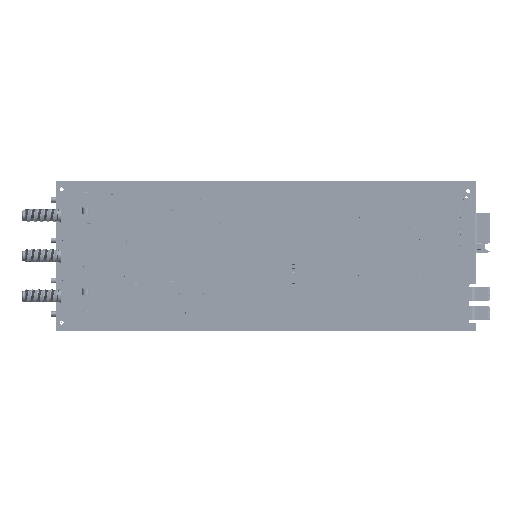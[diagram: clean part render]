
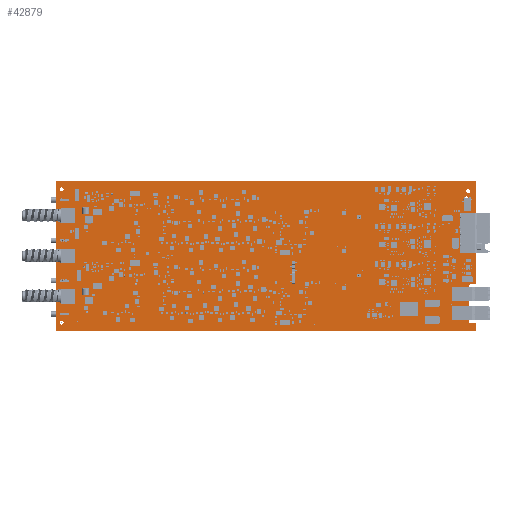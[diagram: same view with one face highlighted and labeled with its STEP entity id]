
A CAD part, top view. The second image highlights one B-rep face of the part: STEP entity #42879.
In plain terms, the highlighted planar face has unit normal (0, 0, 1).
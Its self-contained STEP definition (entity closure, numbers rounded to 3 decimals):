
#42879=ADVANCED_FACE('',(#74057,#74058,#74059,#74060,#74061,#74062,#74063,#74064,#74065,#74066,#74067,#74068,#74069,#74070),#74071,.T.);
#74057=FACE_BOUND('',#110125,.T.);
#74058=FACE_BOUND('',#110126,.T.);
#74059=FACE_BOUND('',#110127,.T.);
#74060=FACE_BOUND('',#110128,.T.);
#74061=FACE_BOUND('',#110129,.T.);
#74062=FACE_BOUND('',#110130,.T.);
#74063=FACE_BOUND('',#110131,.T.);
#74064=FACE_BOUND('',#110132,.T.);
#74065=FACE_BOUND('',#110133,.T.);
#74066=FACE_BOUND('',#110134,.T.);
#74067=FACE_BOUND('',#110135,.T.);
#74068=FACE_BOUND('',#110136,.T.);
#74069=FACE_BOUND('',#110137,.T.);
#74070=FACE_OUTER_BOUND('',#110138,.T.);
#74071=PLANE('',#110139);
#110125=EDGE_LOOP('',(#159802));
#110126=EDGE_LOOP('',(#159803));
#110127=EDGE_LOOP('',(#159804));
#110128=EDGE_LOOP('',(#159805));
#110129=EDGE_LOOP('',(#159806));
#110130=EDGE_LOOP('',(#159807));
#110131=EDGE_LOOP('',(#159808));
#110132=EDGE_LOOP('',(#159809));
#110133=EDGE_LOOP('',(#159810));
#110134=EDGE_LOOP('',(#159811));
#110135=EDGE_LOOP('',(#159812));
#110136=EDGE_LOOP('',(#159813));
#110137=EDGE_LOOP('',(#159814));
#110138=EDGE_LOOP('',(#159815,#159816,#159817,#159818,#159819,#159820,#159821,#159822,#159823,#159824));
#110139=AXIS2_PLACEMENT_3D('',#159825,#159826,#159827);
#159802=ORIENTED_EDGE('',*,*,#186304,.T.);
#159803=ORIENTED_EDGE('',*,*,#186307,.T.);
#159804=ORIENTED_EDGE('',*,*,#186310,.T.);
#159805=ORIENTED_EDGE('',*,*,#186313,.T.);
#159806=ORIENTED_EDGE('',*,*,#186316,.T.);
#159807=ORIENTED_EDGE('',*,*,#186319,.T.);
#159808=ORIENTED_EDGE('',*,*,#186322,.T.);
#159809=ORIENTED_EDGE('',*,*,#186325,.T.);
#159810=ORIENTED_EDGE('',*,*,#186328,.T.);
#159811=ORIENTED_EDGE('',*,*,#186331,.T.);
#159812=ORIENTED_EDGE('',*,*,#186334,.T.);
#159813=ORIENTED_EDGE('',*,*,#186337,.T.);
#159814=ORIENTED_EDGE('',*,*,#186340,.T.);
#159815=ORIENTED_EDGE('',*,*,#186343,.F.);
#159816=ORIENTED_EDGE('',*,*,#186344,.F.);
#159817=ORIENTED_EDGE('',*,*,#186345,.F.);
#159818=ORIENTED_EDGE('',*,*,#186346,.F.);
#159819=ORIENTED_EDGE('',*,*,#186347,.F.);
#159820=ORIENTED_EDGE('',*,*,#186348,.F.);
#159821=ORIENTED_EDGE('',*,*,#186349,.F.);
#159822=ORIENTED_EDGE('',*,*,#186350,.F.);
#159823=ORIENTED_EDGE('',*,*,#186351,.F.);
#159824=ORIENTED_EDGE('',*,*,#186352,.F.);
#159825=CARTESIAN_POINT('',(137.676,44.13,2.272));
#159826=DIRECTION('',(0.0,0.0,1.0));
#159827=DIRECTION('',(1.0,0.0,0.0));
#186304=EDGE_CURVE('',#212588,#212588,#212589,.T.);
#186307=EDGE_CURVE('',#212593,#212593,#212594,.T.);
#186310=EDGE_CURVE('',#212598,#212598,#212599,.T.);
#186313=EDGE_CURVE('',#212603,#212603,#212604,.T.);
#186316=EDGE_CURVE('',#212608,#212608,#212609,.T.);
#186319=EDGE_CURVE('',#212613,#212613,#212614,.T.);
#186322=EDGE_CURVE('',#212618,#212618,#212619,.T.);
#186325=EDGE_CURVE('',#212623,#212623,#212624,.T.);
#186328=EDGE_CURVE('',#212628,#212628,#212629,.T.);
#186331=EDGE_CURVE('',#212633,#212633,#212634,.T.);
#186334=EDGE_CURVE('',#212638,#212638,#212639,.T.);
#186337=EDGE_CURVE('',#212643,#212643,#212644,.T.);
#186340=EDGE_CURVE('',#212648,#212648,#212649,.T.);
#186343=EDGE_CURVE('',#212653,#212654,#212655,.T.);
#186344=EDGE_CURVE('',#212656,#212653,#212657,.T.);
#186345=EDGE_CURVE('',#212658,#212656,#212659,.T.);
#186346=EDGE_CURVE('',#212660,#212658,#212661,.T.);
#186347=EDGE_CURVE('',#212662,#212660,#212663,.T.);
#186348=EDGE_CURVE('',#212664,#212662,#212665,.T.);
#186349=EDGE_CURVE('',#212666,#212664,#212667,.T.);
#186350=EDGE_CURVE('',#212668,#212666,#212669,.T.);
#186351=EDGE_CURVE('',#212670,#212668,#212671,.T.);
#186352=EDGE_CURVE('',#212654,#212670,#212672,.T.);
#212588=VERTEX_POINT('',#256981);
#212589=CIRCLE('',#256982,1.35);
#212593=VERTEX_POINT('',#256986);
#212594=CIRCLE('',#256987,1.35);
#212598=VERTEX_POINT('',#256991);
#212599=CIRCLE('',#256992,1.35);
#212603=VERTEX_POINT('',#256996);
#212604=CIRCLE('',#256997,1.9);
#212608=VERTEX_POINT('',#257001);
#212609=CIRCLE('',#257002,0.75);
#212613=VERTEX_POINT('',#257006);
#212614=CIRCLE('',#257007,0.965);
#212618=VERTEX_POINT('',#257011);
#212619=CIRCLE('',#257012,0.965);
#212623=VERTEX_POINT('',#257016);
#212624=CIRCLE('',#257017,0.965);
#212628=VERTEX_POINT('',#257021);
#212629=CIRCLE('',#257022,0.965);
#212633=VERTEX_POINT('',#257026);
#212634=CIRCLE('',#257027,0.965);
#212638=VERTEX_POINT('',#257031);
#212639=CIRCLE('',#257032,0.965);
#212643=VERTEX_POINT('',#257036);
#212644=CIRCLE('',#257037,0.965);
#212648=VERTEX_POINT('',#257041);
#212649=CIRCLE('',#257042,0.965);
#212653=VERTEX_POINT('',#257046);
#212654=VERTEX_POINT('',#257047);
#212655=LINE('',#257048,#257049);
#212656=VERTEX_POINT('',#257050);
#212657=LINE('',#257051,#257052);
#212658=VERTEX_POINT('',#257053);
#212659=LINE('',#257054,#257055);
#212660=VERTEX_POINT('',#257056);
#212661=LINE('',#257057,#257058);
#212662=VERTEX_POINT('',#257059);
#212663=LINE('',#257060,#257061);
#212664=VERTEX_POINT('',#257062);
#212665=LINE('',#257063,#257064);
#212666=VERTEX_POINT('',#257065);
#212667=LINE('',#257066,#257067);
#212668=VERTEX_POINT('',#257068);
#212669=CIRCLE('',#257069,1.5);
#212670=VERTEX_POINT('',#257070);
#212671=LINE('',#257071,#257072);
#212672=CIRCLE('',#257073,1.5);
#256981=CARTESIAN_POINT('',(271.47,89.1,2.272));
#256982=AXIS2_PLACEMENT_3D('',#276909,#276910,#276911);
#256986=CARTESIAN_POINT('',(0.0,90.25,2.272));
#256987=AXIS2_PLACEMENT_3D('',#276915,#276916,#276917);
#256991=CARTESIAN_POINT('',(0.0,1.35,2.272));
#256992=AXIS2_PLACEMENT_3D('',#276921,#276922,#276923);
#256996=CARTESIAN_POINT('',(269.74,52.45,2.272));
#256997=AXIS2_PLACEMENT_3D('',#276927,#276928,#276929);
#257001=CARTESIAN_POINT('',(270.415,84.225,2.272));
#257002=AXIS2_PLACEMENT_3D('',#276933,#276934,#276935);
#257006=CARTESIAN_POINT('',(2.912,82.865,2.272));
#257007=AXIS2_PLACEMENT_3D('',#276939,#276940,#276941);
#257011=CARTESIAN_POINT('',(-0.06,82.865,2.272));
#257012=AXIS2_PLACEMENT_3D('',#276945,#276946,#276947);
#257016=CARTESIAN_POINT('',(2.912,28.865,2.272));
#257017=AXIS2_PLACEMENT_3D('',#276951,#276952,#276953);
#257021=CARTESIAN_POINT('',(-0.06,28.865,2.272));
#257022=AXIS2_PLACEMENT_3D('',#276957,#276958,#276959);
#257026=CARTESIAN_POINT('',(2.912,6.665,2.272));
#257027=AXIS2_PLACEMENT_3D('',#276963,#276964,#276965);
#257031=CARTESIAN_POINT('',(-0.06,6.665,2.272));
#257032=AXIS2_PLACEMENT_3D('',#276969,#276970,#276971);
#257036=CARTESIAN_POINT('',(2.912,55.865,2.272));
#257037=AXIS2_PLACEMENT_3D('',#276975,#276976,#276977);
#257041=CARTESIAN_POINT('',(-0.06,55.865,2.272));
#257042=AXIS2_PLACEMENT_3D('',#276981,#276982,#276983);
#257046=CARTESIAN_POINT('',(276.44,25.5,2.272));
#257047=CARTESIAN_POINT('',(273.44,25.5,2.272));
#257048=CARTESIAN_POINT('',(274.94,25.5,2.272));
#257049=VECTOR('',#276987,1.0);
#257050=CARTESIAN_POINT('',(276.44,94.45,2.272));
#257051=CARTESIAN_POINT('',(276.44,59.975,2.272));
#257052=VECTOR('',#276988,1.0);
#257053=CARTESIAN_POINT('',(-3.56,94.45,2.272));
#257054=CARTESIAN_POINT('',(136.44,94.45,2.272));
#257055=VECTOR('',#276989,1.0);
#257056=CARTESIAN_POINT('',(-3.56,-5.55,2.272));
#257057=CARTESIAN_POINT('',(-3.56,44.45,2.272));
#257058=VECTOR('',#276990,1.0);
#257059=CARTESIAN_POINT('',(276.44,-5.55,2.272));
#257060=CARTESIAN_POINT('',(136.44,-5.55,2.272));
#257061=VECTOR('',#276991,1.0);
#257062=CARTESIAN_POINT('',(276.44,-0.4,2.272));
#257063=CARTESIAN_POINT('',(276.44,-2.975,2.272));
#257064=VECTOR('',#276992,1.0);
#257065=CARTESIAN_POINT('',(273.44,-0.4,2.272));
#257066=CARTESIAN_POINT('',(274.94,-0.4,2.272));
#257067=VECTOR('',#276993,1.0);
#257068=CARTESIAN_POINT('',(271.94,1.1,2.272));
#257069=AXIS2_PLACEMENT_3D('',#276994,#276995,#276996);
#257070=CARTESIAN_POINT('',(271.94,24.0,2.272));
#257071=CARTESIAN_POINT('',(271.94,12.55,2.272));
#257072=VECTOR('',#276997,1.0);
#257073=AXIS2_PLACEMENT_3D('',#276998,#276999,#277000);
#276909=CARTESIAN_POINT('',(271.47,87.75,2.272));
#276910=DIRECTION('',(0.0,0.0,-1.0));
#276911=DIRECTION('',(0.0,1.0,0.0));
#276915=CARTESIAN_POINT('',(0.0,88.9,2.272));
#276916=DIRECTION('',(0.0,0.0,-1.0));
#276917=DIRECTION('',(0.0,1.0,0.0));
#276921=CARTESIAN_POINT('',(0.0,0.0,2.272));
#276922=DIRECTION('',(0.0,0.0,-1.0));
#276923=DIRECTION('',(0.0,1.0,0.0));
#276927=CARTESIAN_POINT('',(269.74,50.55,2.272));
#276928=DIRECTION('',(0.0,0.0,-1.0));
#276929=DIRECTION('',(0.0,1.0,0.0));
#276933=CARTESIAN_POINT('',(270.415,83.475,2.272));
#276934=DIRECTION('',(0.0,0.0,-1.0));
#276935=DIRECTION('',(0.0,1.0,0.0));
#276939=CARTESIAN_POINT('',(2.912,81.9,2.272));
#276940=DIRECTION('',(0.0,0.0,-1.0));
#276941=DIRECTION('',(0.0,1.0,0.0));
#276945=CARTESIAN_POINT('',(-0.06,81.9,2.272));
#276946=DIRECTION('',(0.0,0.0,-1.0));
#276947=DIRECTION('',(0.0,1.0,0.0));
#276951=CARTESIAN_POINT('',(2.912,27.9,2.272));
#276952=DIRECTION('',(0.0,0.0,-1.0));
#276953=DIRECTION('',(0.0,1.0,0.0));
#276957=CARTESIAN_POINT('',(-0.06,27.9,2.272));
#276958=DIRECTION('',(0.0,0.0,-1.0));
#276959=DIRECTION('',(0.0,1.0,0.0));
#276963=CARTESIAN_POINT('',(2.912,5.7,2.272));
#276964=DIRECTION('',(0.0,0.0,-1.0));
#276965=DIRECTION('',(0.0,1.0,0.0));
#276969=CARTESIAN_POINT('',(-0.06,5.7,2.272));
#276970=DIRECTION('',(0.0,0.0,-1.0));
#276971=DIRECTION('',(0.0,1.0,0.0));
#276975=CARTESIAN_POINT('',(2.912,54.9,2.272));
#276976=DIRECTION('',(0.0,0.0,-1.0));
#276977=DIRECTION('',(0.0,1.0,0.0));
#276981=CARTESIAN_POINT('',(-0.06,54.9,2.272));
#276982=DIRECTION('',(0.0,0.0,-1.0));
#276983=DIRECTION('',(0.0,1.0,0.0));
#276987=DIRECTION('',(-1.0,0.0,0.0));
#276988=DIRECTION('',(0.0,-1.0,0.0));
#276989=DIRECTION('',(1.0,0.0,0.0));
#276990=DIRECTION('',(0.,1.0,0.0));
#276991=DIRECTION('',(-1.0,0.0,0.0));
#276992=DIRECTION('',(0.0,-1.0,0.0));
#276993=DIRECTION('',(1.0,0.,0.0));
#276994=CARTESIAN_POINT('',(273.44,1.1,2.272));
#276995=DIRECTION('',(0.0,0.0,1.0));
#276996=DIRECTION('',(-1.0,0.,0.0));
#276997=DIRECTION('',(0.0,-1.0,0.0));
#276998=CARTESIAN_POINT('',(273.44,24.0,2.272));
#276999=DIRECTION('',(0.0,-0.0,1.0));
#277000=DIRECTION('',(0.0,1.0,0.0));
